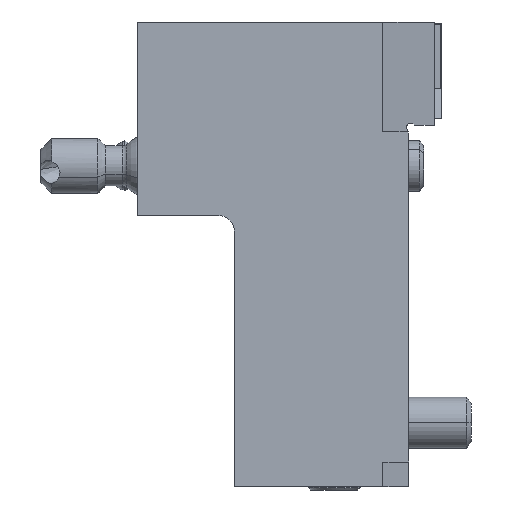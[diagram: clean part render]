
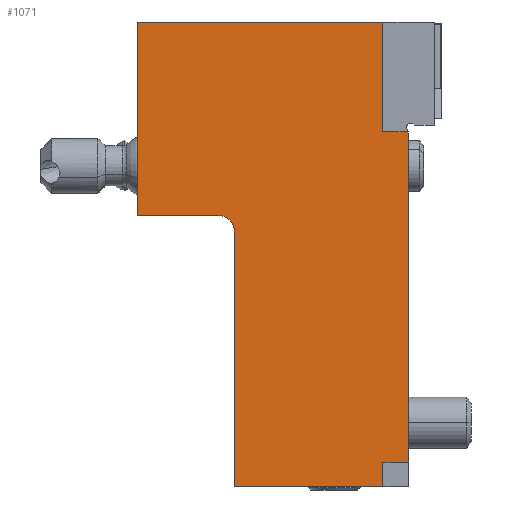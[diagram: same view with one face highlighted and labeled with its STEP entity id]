
A CAD part, left-side view. The second image highlights one B-rep face of the part: STEP entity #1071.
In plain terms, the highlighted planar face has unit normal (-1, 0, 0).
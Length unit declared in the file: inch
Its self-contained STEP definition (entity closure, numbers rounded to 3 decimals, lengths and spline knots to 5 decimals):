
#83 = CARTESIAN_POINT ( 'NONE',  ( -1.77165, -0.75, 2.7385 ) ) ;
#369 = ORIENTED_EDGE ( 'NONE', *, *, #9438, .T. ) ;
#582 = LINE ( 'NONE', #13278, #4486 ) ;
#601 = CARTESIAN_POINT ( 'NONE',  ( -1.77165, 1.35, 3.6 ) ) ;
#1071 = ADVANCED_FACE ( 'NONE', ( #18557 ), #18759, .T. ) ;
#1198 = CARTESIAN_POINT ( 'NONE',  ( -1.77165, -0.95, 2.75 ) ) ;
#1242 = VERTEX_POINT ( 'NONE', #17794 ) ;
#1254 = CARTESIAN_POINT ( 'NONE',  ( -1.77165, -0.95, 2.1 ) ) ;
#1274 = DIRECTION ( 'NONE',  ( 0., -1., 0. ) ) ;
#1446 = CARTESIAN_POINT ( 'NONE',  ( -1.77165, -0.55, 0.19 ) ) ;
#1513 = EDGE_CURVE ( 'NONE', #9286, #14541, #582, .T. ) ;
#1687 = DIRECTION ( 'NONE',  ( 0., 1., 0. ) ) ;
#1846 = CARTESIAN_POINT ( 'NONE',  ( -1.77165, -0.74581, 2.75 ) ) ;
#2017 = CARTESIAN_POINT ( 'NONE',  ( -1.77165, -0.55, 2.75 ) ) ;
#2677 = ORIENTED_EDGE ( 'NONE', *, *, #10890, .T. ) ;
#3015 = DIRECTION ( 'NONE',  ( 0., -0.342, -0.94 ) ) ;
#3066 = EDGE_CURVE ( 'NONE', #9286, #12513, #20285, .T. ) ;
#3112 = VERTEX_POINT ( 'NONE', #83 ) ;
#3514 = VERTEX_POINT ( 'NONE', #8234 ) ;
#3625 = LINE ( 'NONE', #601, #17462 ) ;
#3626 = CARTESIAN_POINT ( 'NONE',  ( -1.77165, 0.6, 0. ) ) ;
#3663 = CARTESIAN_POINT ( 'NONE',  ( -1.77165, 0.72, 2.1 ) ) ;
#3759 = ORIENTED_EDGE ( 'NONE', *, *, #1513, .T. ) ;
#3854 = EDGE_CURVE ( 'NONE', #12513, #20093, #15745, .T. ) ;
#4100 = VERTEX_POINT ( 'NONE', #19801 ) ;
#4118 = CARTESIAN_POINT ( 'NONE',  ( -1.77165, 1.35, 3.6 ) ) ;
#4304 = CARTESIAN_POINT ( 'NONE',  ( -1.77165, -0.95, 3.6 ) ) ;
#4486 = VECTOR ( 'NONE', #4683, 39.37008 ) ;
#4513 = AXIS2_PLACEMENT_3D ( 'NONE', #19915, #17091, #1274 ) ;
#4683 = DIRECTION ( 'NONE',  ( 0., -1., 0. ) ) ;
#4768 = ORIENTED_EDGE ( 'NONE', *, *, #12075, .T. ) ;
#4938 = EDGE_LOOP ( 'NONE', ( #4768, #16598, #11746, #6998, #19079, #3759, #369, #7611, #9693, #16571, #5282, #2677 ) ) ;
#5282 = ORIENTED_EDGE ( 'NONE', *, *, #6280, .T. ) ;
#5584 = DIRECTION ( 'NONE',  ( 0., 0., 1. ) ) ;
#5845 = DIRECTION ( 'NONE',  ( 0., -1., 0. ) ) ;
#5988 = LINE ( 'NONE', #1198, #15610 ) ;
#6026 = CARTESIAN_POINT ( 'NONE',  ( -1.77165, -0.55, 0.19 ) ) ;
#6130 = VERTEX_POINT ( 'NONE', #1846 ) ;
#6280 = EDGE_CURVE ( 'NONE', #1242, #18384, #16645, .T. ) ;
#6526 = VECTOR ( 'NONE', #5845, 39.37008 ) ;
#6630 = CIRCLE ( 'NONE', #4513, 0.12 ) ;
#6737 = LINE ( 'NONE', #10259, #7962 ) ;
#6998 = ORIENTED_EDGE ( 'NONE', *, *, #3854, .F. ) ;
#7010 = VECTOR ( 'NONE', #1687, 39.37008 ) ;
#7387 = CARTESIAN_POINT ( 'NONE',  ( -1.77165, -0.55, 0. ) ) ;
#7611 = ORIENTED_EDGE ( 'NONE', *, *, #10767, .F. ) ;
#7962 = VECTOR ( 'NONE', #5584, 39.37008 ) ;
#8168 = VECTOR ( 'NONE', #3015, 39.37008 ) ;
#8234 = CARTESIAN_POINT ( 'NONE',  ( -1.77165, -0.55, 2.75 ) ) ;
#8976 = AXIS2_PLACEMENT_3D ( 'NONE', #4304, #10849, #17005 ) ;
#9118 = DIRECTION ( 'NONE',  ( 0., 1., 0. ) ) ;
#9286 = VERTEX_POINT ( 'NONE', #1446 ) ;
#9438 = EDGE_CURVE ( 'NONE', #14541, #3112, #6737, .T. ) ;
#9627 = EDGE_CURVE ( 'NONE', #6130, #3514, #5988, .T. ) ;
#9693 = ORIENTED_EDGE ( 'NONE', *, *, #9627, .T. ) ;
#10041 = EDGE_CURVE ( 'NONE', #14161, #20546, #6630, .T. ) ;
#10259 = CARTESIAN_POINT ( 'NONE',  ( -1.77165, -0.75, 0. ) ) ;
#10767 = EDGE_CURVE ( 'NONE', #6130, #3112, #15514, .T. ) ;
#10807 = DIRECTION ( 'NONE',  ( 0., 0., -1. ) ) ;
#10849 = DIRECTION ( 'NONE',  ( -1., 0., 0. ) ) ;
#10890 = EDGE_CURVE ( 'NONE', #18384, #4100, #3625, .T. ) ;
#11563 = CARTESIAN_POINT ( 'NONE',  ( -1.77165, 0.6, 5.72181 ) ) ;
#11588 = CARTESIAN_POINT ( 'NONE',  ( -1.77165, 0.6, 1.98 ) ) ;
#11641 = DIRECTION ( 'NONE',  ( 0., 0., -1. ) ) ;
#11746 = ORIENTED_EDGE ( 'NONE', *, *, #12070, .T. ) ;
#12070 = EDGE_CURVE ( 'NONE', #20546, #20093, #19464, .T. ) ;
#12075 = EDGE_CURVE ( 'NONE', #4100, #14161, #12293, .T. ) ;
#12293 = LINE ( 'NONE', #1254, #6526 ) ;
#12485 = CARTESIAN_POINT ( 'NONE',  ( -1.77165, -0.73681, 2.77474 ) ) ;
#12513 = VERTEX_POINT ( 'NONE', #7387 ) ;
#12630 = VECTOR ( 'NONE', #18313, 39.37008 ) ;
#13202 = CARTESIAN_POINT ( 'NONE',  ( -1.77165, -0.75, 0.19 ) ) ;
#13278 = CARTESIAN_POINT ( 'NONE',  ( -1.77165, -0.55, 0.19 ) ) ;
#13513 = CARTESIAN_POINT ( 'NONE',  ( -1.77165, -0.95, 3.6 ) ) ;
#14046 = VECTOR ( 'NONE', #14807, 39.37008 ) ;
#14161 = VERTEX_POINT ( 'NONE', #3663 ) ;
#14541 = VERTEX_POINT ( 'NONE', #13202 ) ;
#14807 = DIRECTION ( 'NONE',  ( 0., 0., 1. ) ) ;
#15514 = LINE ( 'NONE', #12485, #8168 ) ;
#15610 = VECTOR ( 'NONE', #9118, 39.37008 ) ;
#15745 = LINE ( 'NONE', #18767, #7010 ) ;
#16571 = ORIENTED_EDGE ( 'NONE', *, *, #20557, .T. ) ;
#16598 = ORIENTED_EDGE ( 'NONE', *, *, #10041, .T. ) ;
#16645 = LINE ( 'NONE', #13513, #12630 ) ;
#17005 = DIRECTION ( 'NONE',  ( 0., -1., 0. ) ) ;
#17091 = DIRECTION ( 'NONE',  ( 1., 0., 0. ) ) ;
#17177 = VECTOR ( 'NONE', #17902, 39.37008 ) ;
#17462 = VECTOR ( 'NONE', #11641, 39.37008 ) ;
#17794 = CARTESIAN_POINT ( 'NONE',  ( -1.77165, -0.55, 3.6 ) ) ;
#17902 = DIRECTION ( 'NONE',  ( 0., 0., -1. ) ) ;
#18313 = DIRECTION ( 'NONE',  ( 0., 1., 0. ) ) ;
#18384 = VERTEX_POINT ( 'NONE', #4118 ) ;
#18557 = FACE_OUTER_BOUND ( 'NONE', #4938, .T. ) ;
#18759 = PLANE ( 'NONE',  #8976 ) ;
#18760 = VECTOR ( 'NONE', #10807, 39.37008 ) ;
#18767 = CARTESIAN_POINT ( 'NONE',  ( -1.77165, -0.95, 0. ) ) ;
#19079 = ORIENTED_EDGE ( 'NONE', *, *, #3066, .F. ) ;
#19180 = LINE ( 'NONE', #2017, #14046 ) ;
#19464 = LINE ( 'NONE', #11563, #17177 ) ;
#19801 = CARTESIAN_POINT ( 'NONE',  ( -1.77165, 1.35, 2.1 ) ) ;
#19915 = CARTESIAN_POINT ( 'NONE',  ( -1.77165, 0.72, 1.98 ) ) ;
#20093 = VERTEX_POINT ( 'NONE', #3626 ) ;
#20285 = LINE ( 'NONE', #6026, #18760 ) ;
#20546 = VERTEX_POINT ( 'NONE', #11588 ) ;
#20557 = EDGE_CURVE ( 'NONE', #3514, #1242, #19180, .T. ) ;
